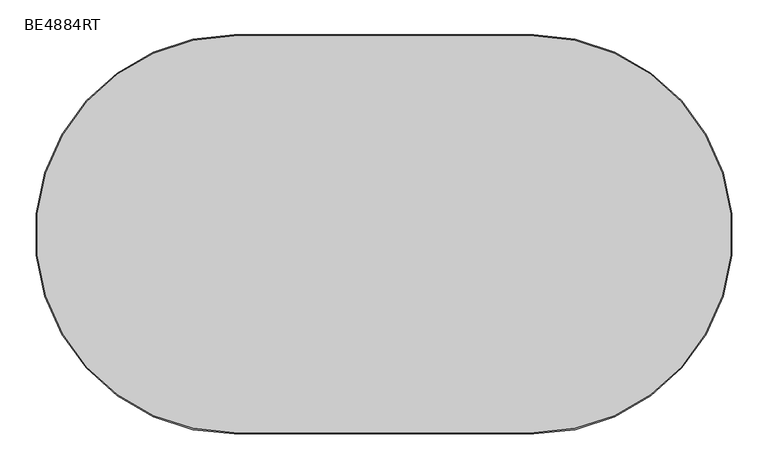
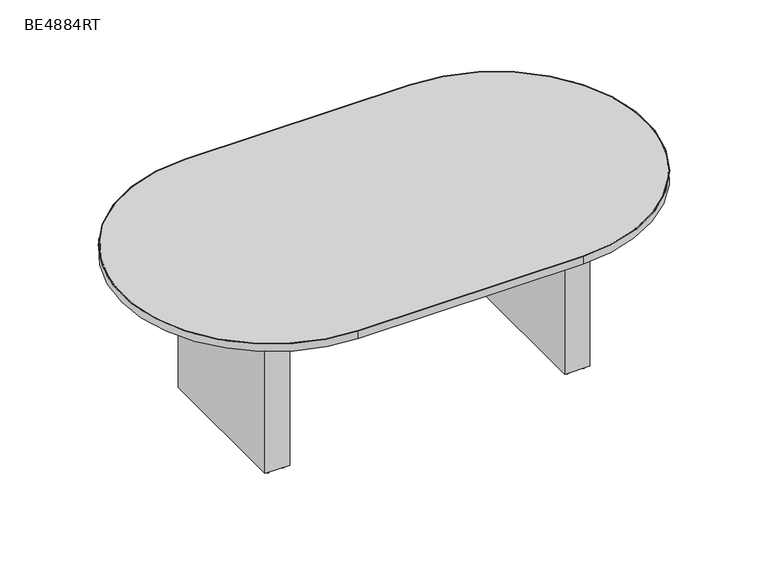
"""IFC4 building model written with IfcOpenShell, lengths in millimetres: furniture geometry, ERG-Beta-Conference_Table-Racetrack : BE4884RT."""

import ifcopenshell
import ifcopenshell.guid

model = None  # the IFC model being written
_history = None  # IfcOwnerHistory: only IFC2X3 demands one
_inside = {}  # id of a spatial element -> (the spatial element, [elements in it])
_under = {}  # id of a project, library or spatial element -> (it, [spatial elements below it])
_declared = {}  # id of a project -> (the project, [libraries it declares])
_typed = {}  # id of a type object -> (the type object, [elements of that type])
_made_of = {}  # id of a material, layer set ... -> (it, [elements and type objects made of it])


def new_model(schema):
    """Start an empty IFC model of exactly this schema.

    Asked for "IFC4X3", IfcOpenShell would pick the latest addendum, in which some entities
    have other attributes; the version numbers below select the first issue.
    IFC2X3 requires an IfcOwnerHistory on every rooted entity: one is made here for all.
    """
    global model, _history
    if schema == "IFC4X3":
        model = ifcopenshell.file(schema_version=(4, 3, 0, 0))
    else:
        model = ifcopenshell.file(schema=schema)
    _inside.clear()
    _under.clear()
    _declared.clear()
    _typed.clear()
    _made_of.clear()
    _history = None
    if model.schema == "IFC2X3":
        org = make("IfcOrganization", Name="unknown")
        user = make(
            "IfcPersonAndOrganization",
            ThePerson=make("IfcPerson", FamilyName="unknown"),
            TheOrganization=org,
        )
        app = make(
            "IfcApplication",
            ApplicationDeveloper=org,
            Version="unknown",
            ApplicationFullName="unknown",
            ApplicationIdentifier="unknown",
        )
        _history = make(
            "IfcOwnerHistory",
            OwningUser=user,
            OwningApplication=app,
            ChangeAction="ADDED",
            CreationDate=0,
        )
    return model


def make(cls, **values):
    """One entity of the class cls with the attributes given. An attribute that is None is left unset."""
    return model.create_entity(
        cls, **{name: value for name, value in values.items() if value is not None}
    )


def rooted(cls, **values):
    """An entity with a GlobalId (a new one), such as an element, a storey or a relation."""
    return make(cls, GlobalId=ifcopenshell.guid.new(), OwnerHistory=_history, **values)


def si_unit(unit_type, name, prefix=None):
    """IfcSIUnit, for example si_unit("LENGTHUNIT", "METRE", prefix="MILLI")."""
    return make("IfcSIUnit", UnitType=unit_type, Prefix=prefix, Name=name)


def assignment(units):
    """IfcUnitAssignment: the units of a project."""
    return None if units is None else make("IfcUnitAssignment", Units=units)


def point(xyz):
    """IfcCartesianPoint."""
    return None if xyz is None else make("IfcCartesianPoint", Coordinates=xyz)


def direction(xyz):
    """IfcDirection."""
    return None if xyz is None else make("IfcDirection", DirectionRatios=xyz)


def frame(location, z_axis=None, x_axis=None):
    """IfcAxis2Placement3D, a coordinate frame: its origin and axes. An axis left out is left unset."""
    return make(
        "IfcAxis2Placement3D",
        Location=point(location),
        Axis=direction(z_axis),
        RefDirection=direction(x_axis),
    )


def frame_2d(location, x_axis=None):
    """IfcAxis2Placement2D, a coordinate frame in the plane: its origin and x axis."""
    return make(
        "IfcAxis2Placement2D", Location=point(location), RefDirection=direction(x_axis)
    )


def origin():
    """The frame at (0, 0, 0) with its axes left unset."""
    return frame((0.0, 0.0, 0.0))


def origin_with_axes():
    """The frame at (0, 0, 0) with the z axis (0, 0, 1) and the x axis (1, 0, 0) written out."""
    return frame((0.0, 0.0, 0.0), z_axis=(0.0, 0.0, 1.0), x_axis=(1.0, 0.0, 0.0))


def place(relative_to, where):
    """IfcLocalPlacement: puts the frame where relative to a parent placement (None: the world)."""
    return make(
        "IfcLocalPlacement", PlacementRelTo=relative_to, RelativePlacement=where
    )


def context(
    kind, dimensions, precision=None, world=None, true_north=None, identifier=None
):
    """IfcGeometricRepresentationContext, for example the 3D "Model" context."""
    return make(
        "IfcGeometricRepresentationContext",
        ContextIdentifier=identifier,
        ContextType=kind,
        CoordinateSpaceDimension=dimensions,
        Precision=precision,
        WorldCoordinateSystem=world,
        TrueNorth=true_north,
    )


def project(units=None, contexts=None):
    """IfcProject with its units and contexts."""
    return rooted(
        "IfcProject",
        Name="project",
        RepresentationContexts=contexts,
        UnitsInContext=assignment(units),
    )


def spatial(cls, under=None, at=None, **own):
    """A site, building, storey or space (cls), placed at a placement, below another one or the project."""
    s = rooted(cls, ObjectPlacement=at, **own)
    if under is not None:
        _under.setdefault(under.id(), (under, []))[1].append(s)
    return s


def polyline(points):
    """IfcPolyline through the points."""
    return make("IfcPolyline", Points=[point(p) for p in points])


def circle_curve(where, radius):
    """IfcCircle in the frame where."""
    return make("IfcCircle", Position=where, Radius=radius)


def trimmed(basis, trim1, trim2, sense, master):
    """IfcTrimmedCurve: the piece of a basis curve between two trims."""
    return make(
        "IfcTrimmedCurve",
        BasisCurve=basis,
        Trim1=trim1,
        Trim2=trim2,
        SenseAgreement=sense,
        MasterRepresentation=master,
    )


def segment(curve, same_sense, transition):
    """IfcCompositeCurveSegment."""
    return make(
        "IfcCompositeCurveSegment",
        Transition=transition,
        SameSense=same_sense,
        ParentCurve=curve,
    )


def composite_curve(segments, self_intersect=None):
    """IfcCompositeCurve: segments joined end to end."""
    return make("IfcCompositeCurve", Segments=segments, SelfIntersect=self_intersect)


def outline(outer, holes=None, kind="AREA"):
    """IfcArbitraryClosedProfileDef: a profile drawn as a closed curve; with holes, ...WithVoids."""
    if holes is None:
        return make("IfcArbitraryClosedProfileDef", ProfileType=kind, OuterCurve=outer)
    return make(
        "IfcArbitraryProfileDefWithVoids",
        ProfileType=kind,
        OuterCurve=outer,
        InnerCurves=holes,
    )


def extrude(swept, where, along, depth):
    """IfcExtrudedAreaSolid: the profile swept, set in the frame where, extruded along a direction by depth."""
    return make(
        "IfcExtrudedAreaSolid",
        SweptArea=swept,
        Position=where,
        ExtrudedDirection=direction(along),
        Depth=depth,
    )


def shape(context_of_items, identifier, shape_type, items):
    """IfcShapeRepresentation: the items that make up one representation, for example the "Body"."""
    return make(
        "IfcShapeRepresentation",
        ContextOfItems=context_of_items,
        RepresentationIdentifier=identifier,
        RepresentationType=shape_type,
        Items=items,
    )


def source(mapping_origin, context_of_items, identifier, shape_type, items):
    """IfcRepresentationMap: a shape defined once, which mapped items show again and again."""
    return make(
        "IfcRepresentationMap",
        MappingOrigin=mapping_origin,
        MappedRepresentation=shape(context_of_items, identifier, shape_type, items),
    )


def transform(
    local_origin,
    x_axis=None,
    y_axis=None,
    z_axis=None,
    scale=None,
    scale2=None,
    scale3=None,
    uniform=True,
):
    """IfcCartesianTransformationOperator3D, or its non-uniform kind. x_axis, y_axis, z_axis: its Axis1, 2, 3."""
    if uniform:
        return make(
            "IfcCartesianTransformationOperator3D",
            Axis1=direction(x_axis),
            Axis2=direction(y_axis),
            LocalOrigin=point(local_origin),
            Scale=scale,
            Axis3=direction(z_axis),
        )
    return make(
        "IfcCartesianTransformationOperator3DnonUniform",
        Axis1=direction(x_axis),
        Axis2=direction(y_axis),
        LocalOrigin=point(local_origin),
        Scale=scale,
        Axis3=direction(z_axis),
        Scale2=scale2,
        Scale3=scale3,
    )


def mapped(mapping_source, mapping_target):
    """IfcMappedItem: shows the shape of a source again, moved by a transform."""
    return make(
        "IfcMappedItem", MappingSource=mapping_source, MappingTarget=mapping_target
    )


def made_of(thing, what):
    """Note that an element or type object is made of a material, layer set ...; save() writes the relation."""
    if what is not None:
        _made_of.setdefault(what.id(), (what, []))[1].append(thing)
    return thing


def element(
    cls,
    number,
    at=None,
    inside=None,
    cuts=None,
    type_object=None,
    material=None,
    context=None,
    identifier="Body",
    shape_type=None,
    held_by="IfcProductDefinitionShape",
    body=None,
    shapes=None,
    **own,
):
    """One element of the class cls, such as IfcWall. Its Tag is "e" and its number.

    at: its placement. inside: the storey or other place that contains it. cuts: it is an
    opening in that element (IfcRelVoidsElement). A single representation is given by context,
    identifier, shape_type and body (its items); several are given by shapes. held_by: the class
    of the entity that holds the representations. save() writes the other relations.
    """
    e = rooted(cls, Tag="e%d" % number, ObjectPlacement=at, **own)
    if body is not None:
        shapes = [shape(context, identifier, shape_type, body)]
    if shapes is not None:
        e.Representation = make(held_by, Representations=shapes)
    if inside is not None:
        _inside.setdefault(inside.id(), (inside, []))[1].append(e)
    if cuts is not None:
        rooted(
            "IfcRelVoidsElement", RelatingBuildingElement=cuts, RelatedOpeningElement=e
        )
    if type_object is not None:
        _typed.setdefault(type_object.id(), (type_object, []))[1].append(e)
    return made_of(e, material)


def aggregate(whole, parts):
    """IfcRelAggregates: a whole, such as a stair, and the parts it consists of."""
    return rooted("IfcRelAggregates", RelatingObject=whole, RelatedObjects=parts)


def save(model, path):
    """Write the relations noted so far, then the file.

    IfcRelAggregates (storeys below a building ...), IfcRelContainedInSpatialStructure (elements
    in a storey), IfcRelDefinesByType, IfcRelAssociatesMaterial and IfcRelDeclares: one each for
    every whole, place, type object, material and project.
    """
    for whole, parts in _under.values():
        aggregate(whole, parts)
    for where, things in _inside.values():
        rooted(
            "IfcRelContainedInSpatialStructure",
            RelatedElements=things,
            RelatingStructure=where,
        )
    for kind, things in _typed.values():
        rooted("IfcRelDefinesByType", RelatedObjects=things, RelatingType=kind)
    for what, things in _made_of.values():
        rooted("IfcRelAssociatesMaterial", RelatedObjects=things, RelatingMaterial=what)
    for by, libraries in _declared.values():
        rooted("IfcRelDeclares", RelatingContext=by, RelatedDefinitions=libraries)
    model.write(path)


def be4884rt_efc67c6b(model_context):
    return source(origin(), model_context, "Body", "SweptSolid", [
        extrude(outline(composite_curve([segment(trimmed(circle_curve(frame_2d((1120.775, 339.476527)), 9.525), [point((1111.25, 339.476527))], [point((1130.3, 339.476527))], False, "CARTESIAN"), True, "CONTINUOUS"), segment(trimmed(circle_curve(frame_2d((1120.775, 339.476527)), 9.525), [point((1130.3, 339.476527))], [point((1111.25, 339.476527))], False, "CARTESIAN"), True, "CONTINUOUS")], self_intersect=False)), origin_with_axes(), (0.0, 0.0, 1.0), 9.525),
        extrude(outline(composite_curve([segment(trimmed(circle_curve(frame_2d((1184.275, 339.476527)), 9.525), [point((1174.75, 339.476527))], [point((1193.8, 339.476527))], False, "CARTESIAN"), True, "CONTINUOUS"), segment(trimmed(circle_curve(frame_2d((1184.275, 339.476527)), 9.525), [point((1193.8, 339.476527))], [point((1174.75, 339.476527))], False, "CARTESIAN"), True, "CONTINUOUS")], self_intersect=False)), origin_with_axes(), (0.0, 0.0, 1.0), 9.525),
        extrude(outline(composite_curve([segment(trimmed(circle_curve(frame_2d((1120.775, -232.023473)), 9.525), [point((1111.25, -232.023473))], [point((1130.3, -232.023473))], False, "CARTESIAN"), True, "CONTINUOUS"), segment(trimmed(circle_curve(frame_2d((1120.775, -232.023473)), 9.525), [point((1130.3, -232.023473))], [point((1111.25, -232.023473))], False, "CARTESIAN"), True, "CONTINUOUS")], self_intersect=False)), origin_with_axes(), (0.0, 0.0, 1.0), 9.525),
        extrude(outline(composite_curve([segment(trimmed(circle_curve(frame_2d((1184.275, -232.023473)), 9.525), [point((1174.75, -232.023473))], [point((1193.8, -232.023473))], False, "CARTESIAN"), True, "CONTINUOUS"), segment(trimmed(circle_curve(frame_2d((1184.275, -232.023473)), 9.525), [point((1193.8, -232.023473))], [point((1174.75, -232.023473))], False, "CARTESIAN"), True, "CONTINUOUS")], self_intersect=False)), origin_with_axes(), (0.0, 0.0, 1.0), 9.525),
        extrude(outline(polyline([(1203.325, 358.526527), (1203.325, -251.073473), (1101.725, -251.073473), (1101.725, 358.526527), (1203.325, 358.526527)])), frame((0.0, 0.0, 9.525), z_axis=(0.0, 0.0, 1.0), x_axis=(1.0, 0.0, 0.0)), (0.0, 0.0, 1.0), 695.3249758),
        extrude(outline(composite_curve([segment(trimmed(circle_curve(frame_2d((-98.425, 339.476527)), 9.525), [point((-107.95, 339.476527))], [point((-88.9, 339.476527))], False, "CARTESIAN"), True, "CONTINUOUS"), segment(trimmed(circle_curve(frame_2d((-98.425, 339.476527)), 9.525), [point((-88.9, 339.476527))], [point((-107.95, 339.476527))], False, "CARTESIAN"), True, "CONTINUOUS")], self_intersect=False)), origin_with_axes(), (0.0, 0.0, 1.0), 9.525),
        extrude(outline(composite_curve([segment(trimmed(circle_curve(frame_2d((-34.925, 339.476527)), 9.525), [point((-44.45, 339.476527))], [point((-25.4, 339.476527))], False, "CARTESIAN"), True, "CONTINUOUS"), segment(trimmed(circle_curve(frame_2d((-34.925, 339.476527)), 9.525), [point((-25.4, 339.476527))], [point((-44.45, 339.476527))], False, "CARTESIAN"), True, "CONTINUOUS")], self_intersect=False)), origin_with_axes(), (0.0, 0.0, 1.0), 9.525),
        extrude(outline(composite_curve([segment(trimmed(circle_curve(frame_2d((-98.425, -232.023473)), 9.525), [point((-107.95, -232.023473))], [point((-88.9, -232.023473))], False, "CARTESIAN"), True, "CONTINUOUS"), segment(trimmed(circle_curve(frame_2d((-98.425, -232.023473)), 9.525), [point((-88.9, -232.023473))], [point((-107.95, -232.023473))], False, "CARTESIAN"), True, "CONTINUOUS")], self_intersect=False)), origin_with_axes(), (0.0, 0.0, 1.0), 9.525),
        extrude(outline(composite_curve([segment(trimmed(circle_curve(frame_2d((-34.925, -232.023473)), 9.525), [point((-44.45, -232.023473))], [point((-25.4, -232.023473))], False, "CARTESIAN"), True, "CONTINUOUS"), segment(trimmed(circle_curve(frame_2d((-34.925, -232.023473)), 9.525), [point((-25.4, -232.023473))], [point((-44.45, -232.023473))], False, "CARTESIAN"), True, "CONTINUOUS")], self_intersect=False)), origin_with_axes(), (0.0, 0.0, 1.0), 9.525),
        extrude(outline(polyline([(-15.875, 358.526527), (-15.875, -251.073473), (-117.475, -251.073473), (-117.475, 358.526527), (-15.875, 358.526527)])), frame((0.0, 0.0, 9.525), z_axis=(0.0, 0.0, 1.0), x_axis=(1.0, 0.0, 0.0)), (0.0, 0.0, 1.0), 695.3249758),
        extrude(outline(composite_curve([segment(polyline([(1000.125, -552.698473), (85.725, -552.698473)]), True, "CONTINUOUS"), segment(trimmed(circle_curve(frame_2d((85.725, 53.726527)), 606.425), [point((85.725, -552.698473))], [point((85.725, 660.151527))], False, "CARTESIAN"), True, "CONTINUOUS"), segment(polyline([(85.725, 660.151527), (1000.125, 660.151527)]), True, "CONTINUOUS"), segment(trimmed(circle_curve(frame_2d((1000.125, 53.726527)), 606.425), [point((1000.125, 660.151527))], [point((1000.125, -552.698473))], False, "CARTESIAN"), True, "CONTINUOUS")], self_intersect=False)), frame((0.0, 0.0, 704.85), z_axis=(0.0, 0.0, 1.0), x_axis=(1.0, 0.0, 0.0)), (0.0, 0.0, 1.0), 31.75),
        extrude(outline(composite_curve([segment(polyline([(85.725, 663.326527), (1000.125, 663.326527)]), True, "CONTINUOUS"), segment(trimmed(circle_curve(frame_2d((1000.125, 53.726527)), 609.6), [point((1000.125, 663.326527))], [point((1000.125, -555.873473))], False, "CARTESIAN"), True, "CONTINUOUS"), segment(polyline([(1000.125, -555.873473), (85.725, -555.873473)]), True, "CONTINUOUS"), segment(trimmed(circle_curve(frame_2d((85.725, 53.726527)), 609.6), [point((85.725, -555.873473))], [point((85.725, 663.326527))], False, "CARTESIAN"), True, "CONTINUOUS")], self_intersect=False), holes=[composite_curve([segment(trimmed(circle_curve(frame_2d((85.725, 53.726527)), 606.425), [point((85.725, 660.151527))], [point((85.725, -552.698473))], True, "CARTESIAN"), True, "CONTINUOUS"), segment(polyline([(85.725, -552.698473), (1000.125, -552.698473)]), True, "CONTINUOUS"), segment(trimmed(circle_curve(frame_2d((1000.125, 53.726527)), 606.425), [point((1000.125, -552.698473))], [point((1000.125, 660.151527))], True, "CARTESIAN"), True, "CONTINUOUS"), segment(polyline([(1000.125, 660.151527), (85.725, 660.151527)]), True, "CONTINUOUS")], self_intersect=False)]), frame((0.0, 0.0, 704.85), z_axis=(0.0, 0.0, 1.0), x_axis=(1.0, 0.0, 0.0)), (0.0, 0.0, 1.0), 31.75),
    ])


if __name__ == "__main__":
    model = new_model("IFC4")
    model_context = context("Model", 3, world=origin())
    ifc_project = project(units=[si_unit("LENGTHUNIT", "METRE", prefix="MILLI")], contexts=[model_context])
    site = spatial("IfcSite", under=ifc_project)
    building = spatial("IfcBuilding", under=site)
    placement = place(None, origin())
    be4884rt_shape = be4884rt_efc67c6b(model_context)
    element("IfcFurniture", 1, ObjectType="ERG-Beta-Conference_Table-Racetrack : BE4884RT", at=placement, inside=building, context=model_context, shape_type="MappedRepresentation", body=[
        mapped(be4884rt_shape, transform((0.0, 0.0, 0.0), x_axis=(1.0, 0.0, 0.0), y_axis=(0.0, 1.0, 0.0), z_axis=(0.0, 0.0, 1.0))),
    ])
    save(model, "model.ifc")
